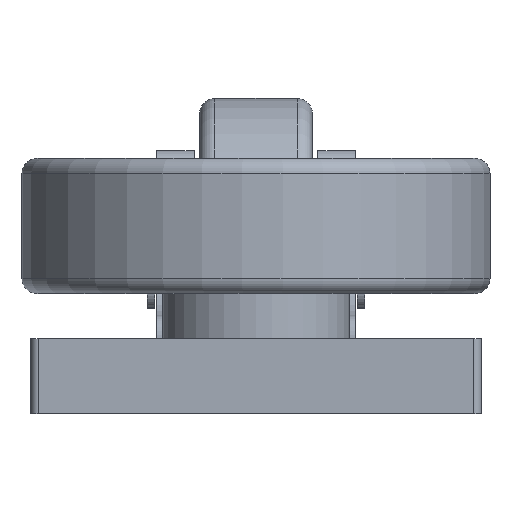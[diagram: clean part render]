
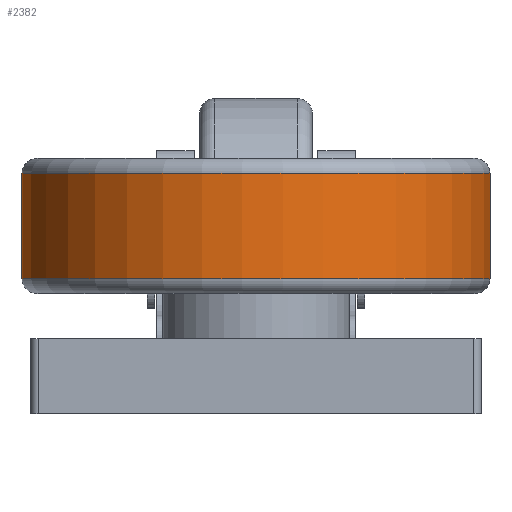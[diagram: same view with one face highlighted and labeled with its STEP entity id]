
A CAD part, left-side view. The second image highlights one B-rep face of the part: STEP entity #2382.
In plain terms, the highlighted cylindrical face has radius 31.25 mm (diameter 62.5 mm), a full revolution.
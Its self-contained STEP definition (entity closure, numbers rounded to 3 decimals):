
#221=FACE_OUTER_BOUND('',#376,.T.);
#376=EDGE_LOOP('',(#2103,#2104,#2105,#2106,#2107,#2108,#2109,#2110));
#559=LINE('',#4154,#724);
#724=VECTOR('',#3399,31.25);
#881=CIRCLE('',#2670,31.25);
#882=CIRCLE('',#2671,31.25);
#886=CIRCLE('',#2675,31.25);
#887=CIRCLE('',#2677,31.25);
#888=CIRCLE('',#2678,31.25);
#889=CIRCLE('',#2679,31.25);
#1136=VERTEX_POINT('',#4137);
#1137=VERTEX_POINT('',#4138);
#1138=VERTEX_POINT('',#4140);
#1141=VERTEX_POINT('',#4149);
#1142=VERTEX_POINT('',#4150);
#1143=VERTEX_POINT('',#4152);
#1470=EDGE_CURVE('',#1136,#1137,#881,.T.);
#1471=EDGE_CURVE('',#1137,#1138,#882,.T.);
#1475=EDGE_CURVE('',#1138,#1136,#886,.T.);
#1476=EDGE_CURVE('',#1141,#1142,#887,.T.);
#1477=EDGE_CURVE('',#1143,#1141,#888,.T.);
#1478=EDGE_CURVE('',#1143,#1137,#559,.T.);
#1479=EDGE_CURVE('',#1142,#1143,#889,.T.);
#2103=ORIENTED_EDGE('',*,*,#1476,.F.);
#2104=ORIENTED_EDGE('',*,*,#1477,.F.);
#2105=ORIENTED_EDGE('',*,*,#1478,.T.);
#2106=ORIENTED_EDGE('',*,*,#1470,.F.);
#2107=ORIENTED_EDGE('',*,*,#1475,.F.);
#2108=ORIENTED_EDGE('',*,*,#1471,.F.);
#2109=ORIENTED_EDGE('',*,*,#1478,.F.);
#2110=ORIENTED_EDGE('',*,*,#1479,.F.);
#2275=CYLINDRICAL_SURFACE('',#2676,31.25);
#2382=ADVANCED_FACE('',(#221),#2275,.T.);
#2670=AXIS2_PLACEMENT_3D('',#4139,#3381,#3382);
#2671=AXIS2_PLACEMENT_3D('',#4141,#3383,#3384);
#2675=AXIS2_PLACEMENT_3D('',#4147,#3391,#3392);
#2676=AXIS2_PLACEMENT_3D('',#4148,#3393,#3394);
#2677=AXIS2_PLACEMENT_3D('',#4151,#3395,#3396);
#2678=AXIS2_PLACEMENT_3D('',#4153,#3397,#3398);
#2679=AXIS2_PLACEMENT_3D('',#4155,#3400,#3401);
#3381=DIRECTION('center_axis',(0.,0.,
-1.));
#3382=DIRECTION('ref_axis',(0.059,0.998,0.));
#3383=DIRECTION('center_axis',(0.,0.,
-1.));
#3384=DIRECTION('ref_axis',(0.059,0.998,0.));
#3391=DIRECTION('center_axis',(0.,0.,
-1.));
#3392=DIRECTION('ref_axis',(0.059,0.998,0.));
#3393=DIRECTION('center_axis',(0.,0.,
1.));
#3394=DIRECTION('ref_axis',(-0.059,-0.998,0.));
#3395=DIRECTION('center_axis',(0.,0.,
1.));
#3396=DIRECTION('ref_axis',(0.059,0.998,0.));
#3397=DIRECTION('center_axis',(0.,0.,
1.));
#3398=DIRECTION('ref_axis',(0.059,0.998,0.));
#3399=DIRECTION('',(0.,0.,-1.));
#3400=DIRECTION('center_axis',(0.,0.,
1.));
#3401=DIRECTION('ref_axis',(0.059,0.998,0.));
#4137=CARTESIAN_POINT('',(-29.283,-27.003,0.5));
#4138=CARTESIAN_POINT('',(-25.607,35.389,0.5));
#4139=CARTESIAN_POINT('Origin',(-27.445,4.193,0.5));
#4140=CARTESIAN_POINT('',(3.751,2.355,0.5));
#4141=CARTESIAN_POINT('Origin',(-27.445,4.193,0.5));
#4147=CARTESIAN_POINT('Origin',(-27.445,4.193,0.5));
#4148=CARTESIAN_POINT('Origin',(-27.445,4.193,7.5));
#4149=CARTESIAN_POINT('',(-29.283,-27.003,14.5));
#4150=CARTESIAN_POINT('',(3.751,2.355,14.5));
#4151=CARTESIAN_POINT('Origin',(-27.445,4.193,14.5));
#4152=CARTESIAN_POINT('',(-25.607,35.389,14.5));
#4153=CARTESIAN_POINT('Origin',(-27.445,4.193,14.5));
#4154=CARTESIAN_POINT('',(-25.607,35.389,7.5));
#4155=CARTESIAN_POINT('Origin',(-27.445,4.193,14.5));
